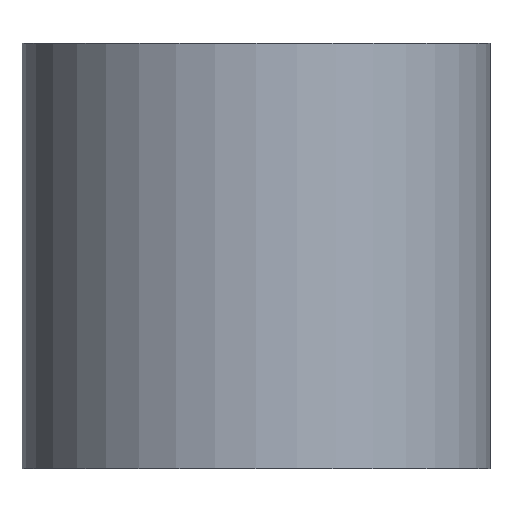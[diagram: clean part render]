
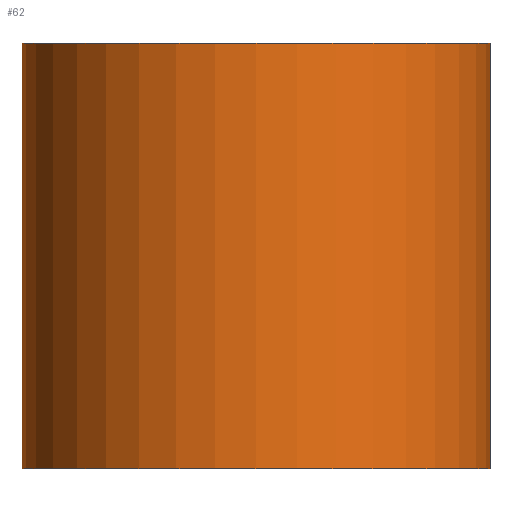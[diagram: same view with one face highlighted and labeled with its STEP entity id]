
A CAD part, front view. The second image highlights one B-rep face of the part: STEP entity #62.
In plain terms, the highlighted cylindrical face has radius 5.5 mm (diameter 11 mm), a full revolution.
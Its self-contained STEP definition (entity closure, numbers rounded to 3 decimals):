
#20=FACE_OUTER_BOUND('',#24,.T.);
#24=EDGE_LOOP('',(#51,#52,#53,#54));
#30=LINE('',#124,#32);
#32=VECTOR('',#106,5.5);
#35=CIRCLE('',#89,5.5);
#36=CIRCLE('',#90,5.5);
#39=VERTEX_POINT('',#121);
#40=VERTEX_POINT('',#123);
#44=EDGE_CURVE('',#39,#39,#35,.T.);
#45=EDGE_CURVE('',#39,#40,#30,.T.);
#46=EDGE_CURVE('',#40,#40,#36,.T.);
#51=ORIENTED_EDGE('',*,*,#44,.F.);
#52=ORIENTED_EDGE('',*,*,#45,.T.);
#53=ORIENTED_EDGE('',*,*,#46,.F.);
#54=ORIENTED_EDGE('',*,*,#45,.F.);
#60=CYLINDRICAL_SURFACE('',#88,5.5);
#62=ADVANCED_FACE('',(#20),#60,.T.);
#88=AXIS2_PLACEMENT_3D('',#120,#102,#103);
#89=AXIS2_PLACEMENT_3D('',#122,#104,#105);
#90=AXIS2_PLACEMENT_3D('',#125,#107,#108);
#102=DIRECTION('center_axis',(0.,0.,-1.));
#103=DIRECTION('ref_axis',(1.,0.,0.));
#104=DIRECTION('center_axis',(0.,0.,-1.));
#105=DIRECTION('ref_axis',(1.,0.,0.));
#106=DIRECTION('',(0.,0.,1.));
#107=DIRECTION('center_axis',(0.,0.,1.));
#108=DIRECTION('ref_axis',(1.,0.,0.));
#120=CARTESIAN_POINT('Origin',(0.,0.,0.));
#121=CARTESIAN_POINT('',(-5.5,0.,-10.));
#122=CARTESIAN_POINT('Origin',(0.,0.,-10.));
#123=CARTESIAN_POINT('',(-5.5,0.,0.));
#124=CARTESIAN_POINT('',(-5.5,0.,0.));
#125=CARTESIAN_POINT('Origin',(0.,0.,0.));
